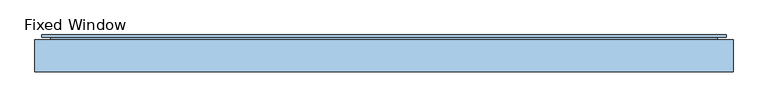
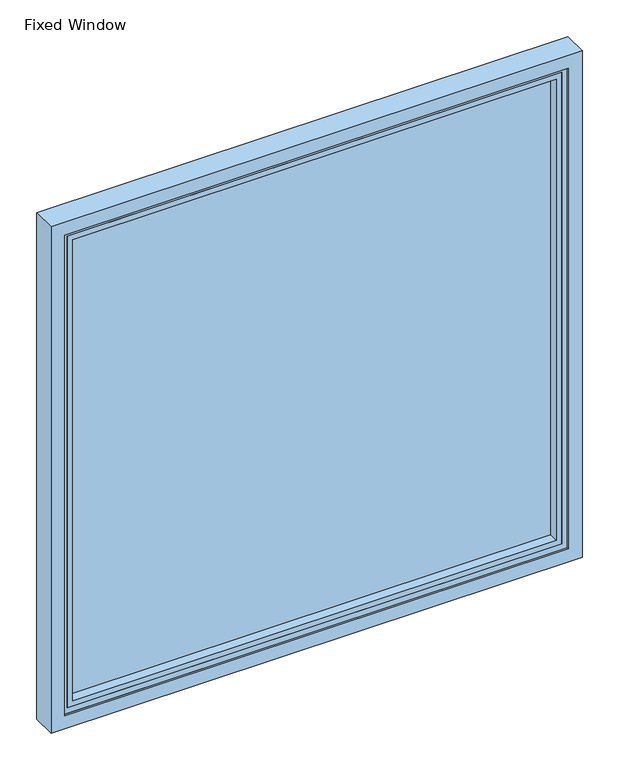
"""IFC4 building model written with IfcOpenShell, lengths in millimetres: window geometry, Windows_Fixed-Frames_Reynaers_SL-68_Fixed : Fixed Window."""

from ifc_helpers import new_model, si_unit, frame, origin, place, context, project, spatial, polyline, outline, extrude, faceted_brep, source, transform, mapped, element, save


def fixed_window_ec2997ee(model_context):
    return source(origin(), model_context, "Body", "SolidModel", [
        extrude(outline(polyline([(686.0, 70.8), (686.0, 43.8), (-686.0, 43.8), (-686.0, 70.8), (686.0, 70.8)])), frame((0.0, 0.0, 854.0), z_axis=(0.0, 0.0, 1.0), x_axis=(1.0, 0.0, 0.0)), (0.0, 0.0, 1.0), 1382.0),
        extrude(outline(polyline([(2238.9995463, 688.9995463), (2238.9995463, -688.9995463), (851.0004537, -688.9995463), (851.0004537, 688.9995463), (2238.9995463, 688.9995463)]), holes=[polyline([(866.5004537, 673.4995463), (866.5004537, -673.4995463), (2223.4995463, -673.4995463), (2223.4995463, 673.4995463), (866.5004537, 673.4995463)])]), frame((0.0, 11.9999897, 0.0), z_axis=(0.0, 1.0, 0.0), x_axis=(0.0, 0.0, 1.0)), (0.0, 0.0, 1.0), 26.5356284),
        faceted_brep([(705.8995463, 75.0, 2255.8995463), (705.8995463, 11.9999897, 2255.8995463), (705.8995463, 11.9999897, 834.1004537), (705.8995463, 75.0, 834.1004537), (725.0, 80.0, 2275.0), (725.0, 75.0, 2275.0), (725.0, 75.0, 815.0), (725.0, 80.0, 815.0), (675.0, 75.0, 2225.0), (675.0, 80.0, 2225.0), (675.0, 80.0, 865.0), (675.0, 75.0, 865.0), (688.9995463, 11.9999897, 2238.9995463), (688.9995463, 75.0, 2238.9995463), (688.9995463, 75.0, 851.0004537), (688.9995463, 11.9999897, 851.0004537), (-705.8995463, 11.9999897, 834.1004537), (-705.8995463, 75.0, 834.1004537), (-725.0, 75.0, 815.0), (-725.0, 80.0, 815.0), (-675.0, 80.0, 865.0), (-675.0, 75.0, 865.0), (-688.9995463, 75.0, 851.0004537), (-688.9995463, 11.9999897, 851.0004537), (-705.8995463, 11.9999897, 2255.8995463), (-705.8995463, 75.0, 2255.8995463), (-725.0, 75.0, 2275.0), (-725.0, 80.0, 2275.0), (-675.0, 80.0, 2225.0), (-675.0, 75.0, 2225.0), (-688.9995463, 75.0, 2238.9995463), (-688.9995463, 11.9999897, 2238.9995463)], [[[0, 1, 2, 3]], [[4, 5, 6, 7]], [[8, 9, 10, 11]], [[12, 13, 14, 15]], [[3, 2, 16, 17]], [[7, 6, 18, 19]], [[11, 10, 20, 21]], [[15, 14, 22, 23]], [[17, 16, 24, 25]], [[19, 18, 26, 27]], [[21, 20, 28, 29]], [[23, 22, 30, 31]], [[25, 24, 1, 0]], [[5, 26, 18, 6], [3, 17, 25, 0]], [[27, 26, 5, 4]], [[7, 19, 27, 4], [9, 28, 20, 10]], [[29, 28, 9, 8]], [[13, 30, 22, 14], [11, 21, 29, 8]], [[31, 30, 13, 12]], [[1, 24, 16, 2], [15, 23, 31, 12]]]),
        faceted_brep([(719.9167967, 7.0000033, 2269.9167967), (719.9167967, 70.0, 2269.9167967), (719.9167967, 70.0, 820.0832033), (719.9167967, 7.0000033, 820.0832033), (702.0, 2.0000033, 2252.0), (702.0, 7.0000033, 2252.0), (702.0, 7.0000033, 838.0), (702.0, 2.0000033, 838.0), (740.0, 70.0, 2290.0), (740.0, 2.0000033, 2290.0), (740.0, 2.0000033, 800.0), (740.0, 70.0, 800.0), (-719.9167967, 70.0, 820.0832033), (-719.9167967, 7.0000033, 820.0832033), (-702.0, 7.0000033, 838.0), (-702.0, 2.0000033, 838.0), (-740.0, 2.0000033, 800.0), (-740.0, 70.0, 800.0), (-719.9167967, 70.0, 2269.9167967), (-719.9167967, 7.0000033, 2269.9167967), (-702.0, 7.0000033, 2252.0), (-702.0, 2.0000033, 2252.0), (-740.0, 2.0000033, 2290.0), (-740.0, 70.0, 2290.0)], [[[0, 1, 2, 3]], [[4, 5, 6, 7]], [[8, 9, 10, 11]], [[3, 2, 12, 13]], [[7, 6, 14, 15]], [[11, 10, 16, 17]], [[13, 12, 18, 19]], [[15, 14, 20, 21]], [[17, 16, 22, 23]], [[19, 18, 1, 0]], [[3, 13, 19, 0], [5, 20, 14, 6]], [[21, 20, 5, 4]], [[9, 22, 16, 10], [7, 15, 21, 4]], [[23, 22, 9, 8]], [[11, 17, 23, 8], [1, 18, 12, 2]]]),
    ])


if __name__ == "__main__":
    model = new_model("IFC4")
    model_context = context("Model", 3, world=origin())
    ifc_project = project(units=[si_unit("LENGTHUNIT", "METRE", prefix="MILLI")], contexts=[model_context])
    site = spatial("IfcSite", under=ifc_project)
    building = spatial("IfcBuilding", under=site)
    placement = place(None, origin())
    fixed_window_shape = fixed_window_ec2997ee(model_context)
    element("IfcWindow", 1, ObjectType="Windows_Fixed-Frames_Reynaers_SL-68_Fixed : Fixed Window", at=placement, inside=building, context=model_context, shape_type="MappedRepresentation", body=[
        mapped(fixed_window_shape, transform((0.0, 0.0, 0.0), x_axis=(1.0, 0.0, 0.0), y_axis=(0.0, 1.0, 0.0), z_axis=(0.0, 0.0, 1.0))),
    ])
    save(model, "model.ifc")
